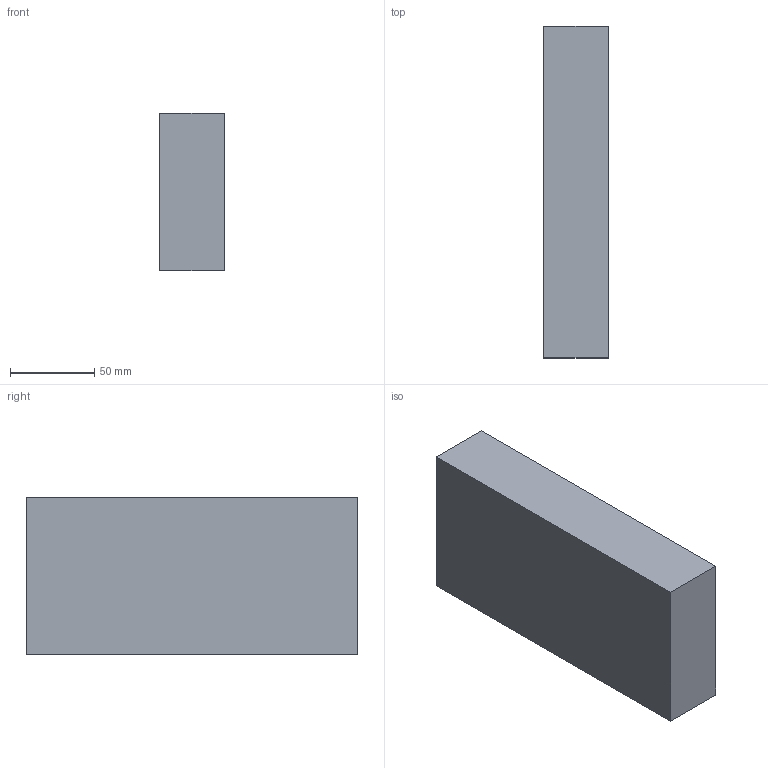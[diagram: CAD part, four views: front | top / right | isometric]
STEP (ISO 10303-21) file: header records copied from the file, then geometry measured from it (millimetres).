
FILE_DESCRIPTION(('FreeCAD Model'),'2;1');
FILE_NAME('/home/jwright/Documents/Mach_30/Shepard_v1.0_CAD/STEP_Files/Shepard_v1.0_Base_Front_TSBa03.step','2012-10-21T18:01:53',('FreeCAD'),( 'FreeCAD'),'Open CASCADE STEP processor 6.5','FreeCAD','Unknown');
FILE_SCHEMA(('AUTOMOTIVE_DESIGN_CC2 { 1 2 10303 214 -1 1 5 4 }'));
Length unit declared in the file: millimetre
Products named in the file (1): Box
Bounding box: 38.1 x 196.85 x 93.66 mm (x, y, z)
Volume: 702467.3 mm3; surface area: 59012 mm2
Topology: 1 solids, 1 shells, 6 faces, 12 edges, 8 vertices
Faces by surface type: plane 6
Entity records: 333 total; most frequent: CARTESIAN_POINT 51, DIRECTION 50, LINE 36, VECTOR 36, ORIENTED_EDGE 24, PCURVE 24, DEFINITIONAL_REPRESENTATION 24, EDGE_CURVE 12
